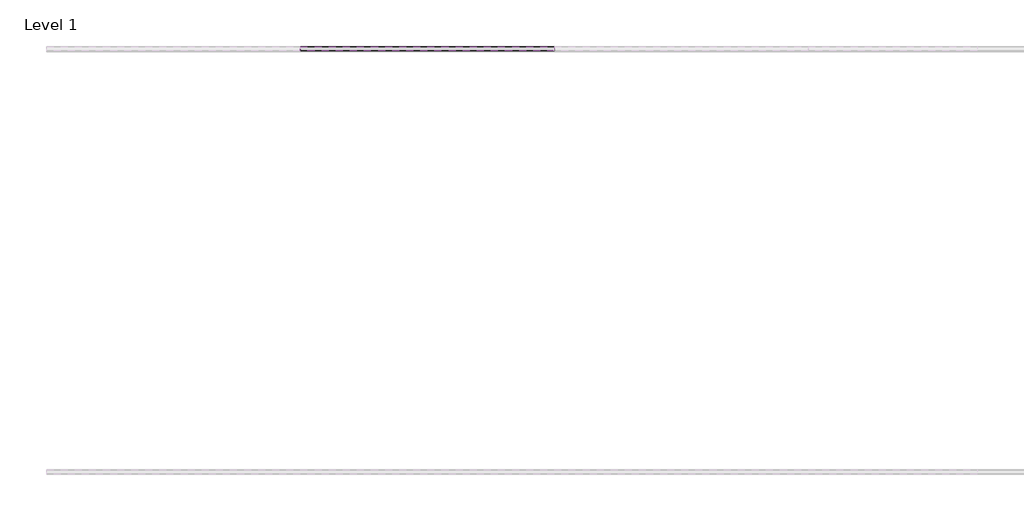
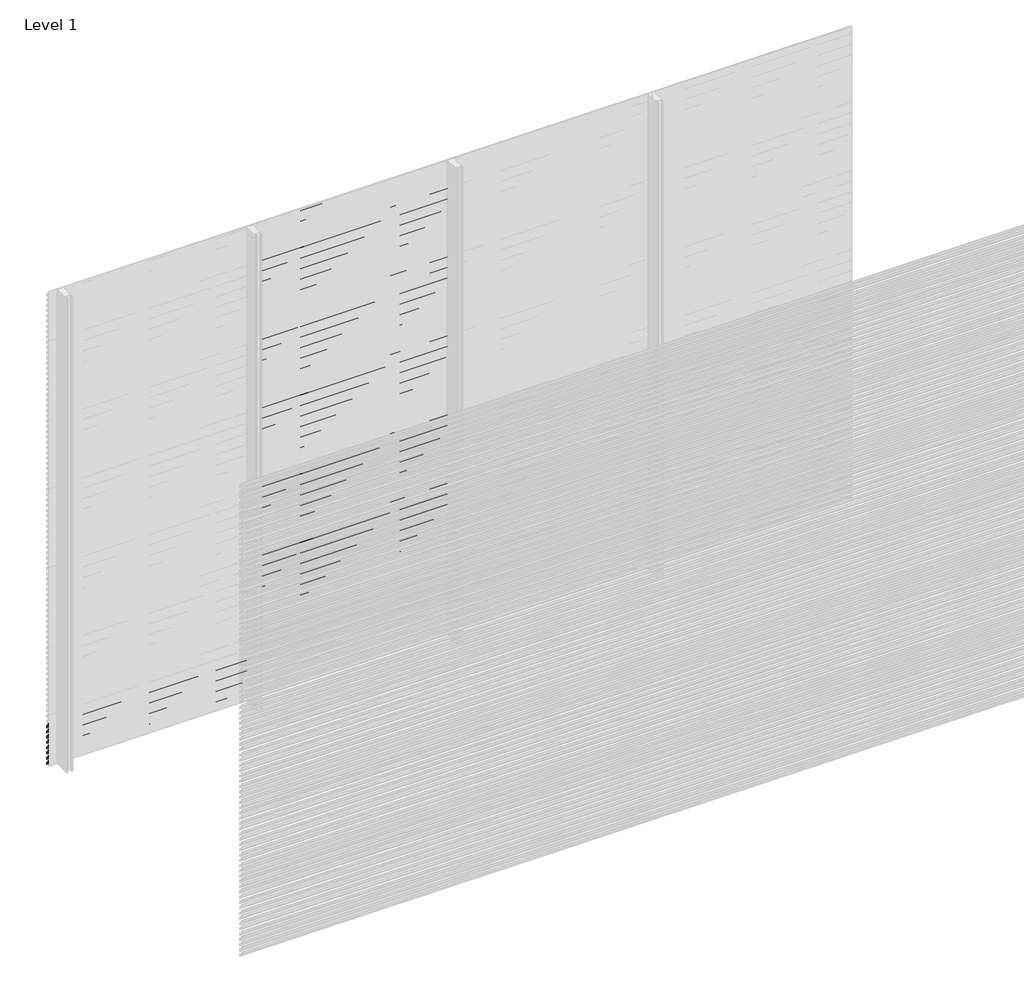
# One storey, part 71 of 507: 84 proxies.
"""IFC4 building model written with IfcOpenShell, lengths in millimetres."""

from ifc_helpers import new_model, si_unit, frame, origin, place, context, project, spatial, polyline, outline, extrude, element, save

model = new_model("IFC4")

# Units and contexts
model_context = context("Model", 3, world=origin())
ifc_project = project(units=[si_unit("LENGTHUNIT", "METRE", prefix="MILLI")], contexts=[model_context])

# Site, building, storey
site = spatial("IfcSite", under=ifc_project)
building = spatial("IfcBuilding", under=site)
storey = spatial("IfcBuildingStorey", under=building, Name="Level 1", Elevation=0.0)

# Proxies
placement = place(None, origin())
element("IfcBuildingElementProxy", 1, Name="Wall Sweeps", at=placement, inside=storey, context=model_context, shape_type="SweptSolid", body=[
    extrude(outline(polyline([(51503.4540136, 242.4), (51503.4540136, 228.9), (51502.2040136, 229.6216933), (51502.2040136, 241.6782281), (51483.0540136, 252.7345698), (51483.0540136, 266.4), (51484.3040136, 266.4), (51484.3040136, 253.4562577), (51503.4540136, 242.4)])), frame((44966.6208097, 0.0, 0.0), z_axis=(1.0, 0.0, 0.0), x_axis=(0.0, 1.0, 0.0)), (0.0, 0.0, 1.0), 1200.0000002),
])
element("IfcBuildingElementProxy", 2, Name="Wall Sweeps", at=placement, inside=storey, context=model_context, shape_type="SweptSolid", body=[
    extrude(outline(polyline([(51503.4540136, 209.1), (51503.4540136, 195.6), (51502.2040136, 196.3216933), (51502.2040136, 208.3782281), (51483.0540136, 219.4345698), (51483.0540136, 233.1), (51484.3040136, 233.1), (51484.3040136, 220.1562577), (51503.4540136, 209.1)])), frame((44966.6208097, 0.0, 0.0), z_axis=(1.0, 0.0, 0.0), x_axis=(0.0, 1.0, 0.0)), (0.0, 0.0, 1.0), 1200.0000002),
])
element("IfcBuildingElementProxy", 3, Name="Wall Sweeps", at=placement, inside=storey, context=model_context, shape_type="SweptSolid", body=[
    extrude(outline(polyline([(51503.4540136, 175.8), (51503.4540136, 162.3), (51502.2040136, 163.0216933), (51502.2040136, 175.0782281), (51483.0540136, 186.1345698), (51483.0540136, 199.8), (51484.3040136, 199.8), (51484.3040136, 186.8562577), (51503.4540136, 175.8)])), frame((44966.6208097, 0.0, 0.0), z_axis=(1.0, 0.0, 0.0), x_axis=(0.0, 1.0, 0.0)), (0.0, 0.0, 1.0), 1200.0000002),
])
element("IfcBuildingElementProxy", 4, Name="Wall Sweeps", at=placement, inside=storey, context=model_context, shape_type="SweptSolid", body=[
    extrude(outline(polyline([(51503.4540136, 142.5), (51503.4540136, 129.0), (51502.2040136, 129.7216933), (51502.2040136, 141.7782281), (51483.0540136, 152.8345698), (51483.0540136, 166.5), (51484.3040136, 166.5), (51484.3040136, 153.5562577), (51503.4540136, 142.5)])), frame((44966.6208097, 0.0, 0.0), z_axis=(1.0, 0.0, 0.0), x_axis=(0.0, 1.0, 0.0)), (0.0, 0.0, 1.0), 1200.0000002),
])
element("IfcBuildingElementProxy", 5, Name="Wall Sweeps", at=placement, inside=storey, context=model_context, shape_type="SweptSolid", body=[
    extrude(outline(polyline([(51503.4540136, 109.2), (51503.4540136, 95.7), (51502.2040136, 96.4216933), (51502.2040136, 108.4782281), (51483.0540136, 119.5345698), (51483.0540136, 133.2), (51484.3040136, 133.2), (51484.3040136, 120.2562577), (51503.4540136, 109.2)])), frame((44966.6208097, 0.0, 0.0), z_axis=(1.0, 0.0, 0.0), x_axis=(0.0, 1.0, 0.0)), (0.0, 0.0, 1.0), 1200.0000002),
])
element("IfcBuildingElementProxy", 6, Name="Wall Sweeps", at=placement, inside=storey, context=model_context, shape_type="SweptSolid", body=[
    extrude(outline(polyline([(51503.4540136, 75.9), (51503.4540136, 62.4), (51502.2040136, 63.1216933), (51502.2040136, 75.1782281), (51483.0540136, 86.2345698), (51483.0540136, 99.9), (51484.3040136, 99.9), (51484.3040136, 86.9562577), (51503.4540136, 75.9)])), frame((44966.6208097, 0.0, 0.0), z_axis=(1.0, 0.0, 0.0), x_axis=(0.0, 1.0, 0.0)), (0.0, 0.0, 1.0), 1200.0000002),
])
element("IfcBuildingElementProxy", 7, Name="Wall Sweeps", at=placement, inside=storey, context=model_context, shape_type="SweptSolid", body=[
    extrude(outline(polyline([(51503.4540136, 42.6), (51503.4540136, 29.1), (51502.2040136, 29.8216933), (51502.2040136, 41.8782281), (51483.0540136, 52.9345698), (51483.0540136, 66.6), (51484.3040136, 66.6), (51484.3040136, 53.6562577), (51503.4540136, 42.6)])), frame((44966.6208097, 0.0, 0.0), z_axis=(1.0, 0.0, 0.0), x_axis=(0.0, 1.0, 0.0)), (0.0, 0.0, 1.0), 1200.0000002),
])
element("IfcBuildingElementProxy", 8, Name="Wall Sweeps", at=placement, inside=storey, context=model_context, shape_type="SweptSolid", body=[
    extrude(outline(polyline([(51503.4540136, 9.3), (51503.4540136, -4.2), (51502.2040136, -3.4783067), (51502.2040136, 8.5782281), (51483.0540136, 19.6345698), (51483.0540136, 33.3), (51484.3040136, 33.3), (51484.3040136, 20.3562577), (51503.4540136, 9.3)])), frame((44966.6208097, 0.0, 0.0), z_axis=(1.0, 0.0, 0.0), x_axis=(0.0, 1.0, 0.0)), (0.0, 0.0, 1.0), 1200.0000002),
])
element("IfcBuildingElementProxy", 9, Name="Wall Sweeps", at=placement, inside=storey, context=model_context, shape_type="SweptSolid", body=[
    extrude(outline(polyline([(51503.4540136, 2973.0), (51503.4540136, 2959.5), (51502.2040136, 2960.2216933), (51502.2040136, 2972.2782281), (51483.0540136, 2983.3345698), (51483.0540136, 2997.0), (51484.3040136, 2997.0), (51484.3040136, 2984.0562577), (51503.4540136, 2973.0)])), frame((46166.6208099, 0.0, 0.0), z_axis=(1.0, 0.0, 0.0), x_axis=(0.0, 1.0, 0.0)), (0.0, 0.0, 1.0), 1199.9999999),
])
element("IfcBuildingElementProxy", 10, Name="Wall Sweeps", at=placement, inside=storey, context=model_context, shape_type="SweptSolid", body=[
    extrude(outline(polyline([(51503.4540136, 2939.7), (51503.4540136, 2926.2), (51502.2040136, 2926.9216933), (51502.2040136, 2938.9782281), (51483.0540136, 2950.0345698), (51483.0540136, 2963.7), (51484.3040136, 2963.7), (51484.3040136, 2950.7562577), (51503.4540136, 2939.7)])), frame((46166.6208099, 0.0, 0.0), z_axis=(1.0, 0.0, 0.0), x_axis=(0.0, 1.0, 0.0)), (0.0, 0.0, 1.0), 1199.9999999),
])
element("IfcBuildingElementProxy", 11, Name="Wall Sweeps", at=placement, inside=storey, context=model_context, shape_type="SweptSolid", body=[
    extrude(outline(polyline([(51503.4540136, 2906.4), (51503.4540136, 2892.9), (51502.2040136, 2893.6216933), (51502.2040136, 2905.6782281), (51483.0540136, 2916.7345698), (51483.0540136, 2930.4), (51484.3040136, 2930.4), (51484.3040136, 2917.4562577), (51503.4540136, 2906.4)])), frame((46166.6208099, 0.0, 0.0), z_axis=(1.0, 0.0, 0.0), x_axis=(0.0, 1.0, 0.0)), (0.0, 0.0, 1.0), 1199.9999999),
])
element("IfcBuildingElementProxy", 12, Name="Wall Sweeps", at=placement, inside=storey, context=model_context, shape_type="SweptSolid", body=[
    extrude(outline(polyline([(51503.4540136, 2873.1), (51503.4540136, 2859.6), (51502.2040136, 2860.3216933), (51502.2040136, 2872.3782281), (51483.0540136, 2883.4345698), (51483.0540136, 2897.1), (51484.3040136, 2897.1), (51484.3040136, 2884.1562577), (51503.4540136, 2873.1)])), frame((46166.6208099, 0.0, 0.0), z_axis=(1.0, 0.0, 0.0), x_axis=(0.0, 1.0, 0.0)), (0.0, 0.0, 1.0), 1199.9999999),
])
element("IfcBuildingElementProxy", 13, Name="Wall Sweeps", at=placement, inside=storey, context=model_context, shape_type="SweptSolid", body=[
    extrude(outline(polyline([(51503.4540136, 2839.8), (51503.4540136, 2826.3), (51502.2040136, 2827.0216933), (51502.2040136, 2839.0782281), (51483.0540136, 2850.1345698), (51483.0540136, 2863.8), (51484.3040136, 2863.8), (51484.3040136, 2850.8562577), (51503.4540136, 2839.8)])), frame((46166.6208099, 0.0, 0.0), z_axis=(1.0, 0.0, 0.0), x_axis=(0.0, 1.0, 0.0)), (0.0, 0.0, 1.0), 1199.9999999),
])
element("IfcBuildingElementProxy", 14, Name="Wall Sweeps", at=placement, inside=storey, context=model_context, shape_type="SweptSolid", body=[
    extrude(outline(polyline([(51503.4540136, 2806.5), (51503.4540136, 2793.0), (51502.2040136, 2793.7216933), (51502.2040136, 2805.7782281), (51483.0540136, 2816.8345698), (51483.0540136, 2830.5), (51484.3040136, 2830.5), (51484.3040136, 2817.5562577), (51503.4540136, 2806.5)])), frame((46166.6208099, 0.0, 0.0), z_axis=(1.0, 0.0, 0.0), x_axis=(0.0, 1.0, 0.0)), (0.0, 0.0, 1.0), 1199.9999999),
])
element("IfcBuildingElementProxy", 15, Name="Wall Sweeps", at=placement, inside=storey, context=model_context, shape_type="SweptSolid", body=[
    extrude(outline(polyline([(51503.4540136, 2773.2), (51503.4540136, 2759.7), (51502.2040136, 2760.4216933), (51502.2040136, 2772.4782281), (51483.0540136, 2783.5345698), (51483.0540136, 2797.2), (51484.3040136, 2797.2), (51484.3040136, 2784.2562577), (51503.4540136, 2773.2)])), frame((46166.6208099, 0.0, 0.0), z_axis=(1.0, 0.0, 0.0), x_axis=(0.0, 1.0, 0.0)), (0.0, 0.0, 1.0), 1199.9999999),
])
element("IfcBuildingElementProxy", 16, Name="Wall Sweeps", at=placement, inside=storey, context=model_context, shape_type="SweptSolid", body=[
    extrude(outline(polyline([(51503.4540136, 2739.9), (51503.4540136, 2726.4), (51502.2040136, 2727.1216933), (51502.2040136, 2739.1782281), (51483.0540136, 2750.2345698), (51483.0540136, 2763.9), (51484.3040136, 2763.9), (51484.3040136, 2750.9562577), (51503.4540136, 2739.9)])), frame((46166.6208099, 0.0, 0.0), z_axis=(1.0, 0.0, 0.0), x_axis=(0.0, 1.0, 0.0)), (0.0, 0.0, 1.0), 1199.9999999),
])
element("IfcBuildingElementProxy", 17, Name="Wall Sweeps", at=placement, inside=storey, context=model_context, shape_type="SweptSolid", body=[
    extrude(outline(polyline([(51503.4540136, 2706.6), (51503.4540136, 2693.1), (51502.2040136, 2693.8216933), (51502.2040136, 2705.8782281), (51483.0540136, 2716.9345698), (51483.0540136, 2730.6), (51484.3040136, 2730.6), (51484.3040136, 2717.6562577), (51503.4540136, 2706.6)])), frame((46166.6208099, 0.0, 0.0), z_axis=(1.0, 0.0, 0.0), x_axis=(0.0, 1.0, 0.0)), (0.0, 0.0, 1.0), 1199.9999999),
])
element("IfcBuildingElementProxy", 18, Name="Wall Sweeps", at=placement, inside=storey, context=model_context, shape_type="SweptSolid", body=[
    extrude(outline(polyline([(51503.4540136, 2673.3), (51503.4540136, 2659.8), (51502.2040136, 2660.5216933), (51502.2040136, 2672.5782281), (51483.0540136, 2683.6345698), (51483.0540136, 2697.3), (51484.3040136, 2697.3), (51484.3040136, 2684.3562577), (51503.4540136, 2673.3)])), frame((46166.6208099, 0.0, 0.0), z_axis=(1.0, 0.0, 0.0), x_axis=(0.0, 1.0, 0.0)), (0.0, 0.0, 1.0), 1199.9999999),
])
element("IfcBuildingElementProxy", 19, Name="Wall Sweeps", at=placement, inside=storey, context=model_context, shape_type="SweptSolid", body=[
    extrude(outline(polyline([(51503.4540136, 2640.0), (51503.4540136, 2626.5), (51502.2040136, 2627.2216933), (51502.2040136, 2639.2782281), (51483.0540136, 2650.3345698), (51483.0540136, 2664.0), (51484.3040136, 2664.0), (51484.3040136, 2651.0562577), (51503.4540136, 2640.0)])), frame((46166.6208099, 0.0, 0.0), z_axis=(1.0, 0.0, 0.0), x_axis=(0.0, 1.0, 0.0)), (0.0, 0.0, 1.0), 1199.9999999),
])
element("IfcBuildingElementProxy", 20, Name="Wall Sweeps", at=placement, inside=storey, context=model_context, shape_type="SweptSolid", body=[
    extrude(outline(polyline([(51503.4540136, 2606.7), (51503.4540136, 2593.2), (51502.2040136, 2593.9216933), (51502.2040136, 2605.9782281), (51483.0540136, 2617.0345698), (51483.0540136, 2630.7), (51484.3040136, 2630.7), (51484.3040136, 2617.7562577), (51503.4540136, 2606.7)])), frame((46166.6208099, 0.0, 0.0), z_axis=(1.0, 0.0, 0.0), x_axis=(0.0, 1.0, 0.0)), (0.0, 0.0, 1.0), 1199.9999999),
])
element("IfcBuildingElementProxy", 21, Name="Wall Sweeps", at=placement, inside=storey, context=model_context, shape_type="SweptSolid", body=[
    extrude(outline(polyline([(51503.4540136, 2573.4), (51503.4540136, 2559.9), (51502.2040136, 2560.6216933), (51502.2040136, 2572.6782281), (51483.0540136, 2583.7345698), (51483.0540136, 2597.4), (51484.3040136, 2597.4), (51484.3040136, 2584.4562577), (51503.4540136, 2573.4)])), frame((46166.6208099, 0.0, 0.0), z_axis=(1.0, 0.0, 0.0), x_axis=(0.0, 1.0, 0.0)), (0.0, 0.0, 1.0), 1199.9999999),
])
element("IfcBuildingElementProxy", 22, Name="Wall Sweeps", at=placement, inside=storey, context=model_context, shape_type="SweptSolid", body=[
    extrude(outline(polyline([(51503.4540136, 2540.1), (51503.4540136, 2526.6), (51502.2040136, 2527.3216933), (51502.2040136, 2539.3782281), (51483.0540136, 2550.4345698), (51483.0540136, 2564.1), (51484.3040136, 2564.1), (51484.3040136, 2551.1562577), (51503.4540136, 2540.1)])), frame((46166.6208099, 0.0, 0.0), z_axis=(1.0, 0.0, 0.0), x_axis=(0.0, 1.0, 0.0)), (0.0, 0.0, 1.0), 1199.9999999),
])
element("IfcBuildingElementProxy", 23, Name="Wall Sweeps", at=placement, inside=storey, context=model_context, shape_type="SweptSolid", body=[
    extrude(outline(polyline([(51503.4540136, 2506.8), (51503.4540136, 2493.3), (51502.2040136, 2494.0216933), (51502.2040136, 2506.0782281), (51483.0540136, 2517.1345698), (51483.0540136, 2530.8), (51484.3040136, 2530.8), (51484.3040136, 2517.8562577), (51503.4540136, 2506.8)])), frame((46166.6208099, 0.0, 0.0), z_axis=(1.0, 0.0, 0.0), x_axis=(0.0, 1.0, 0.0)), (0.0, 0.0, 1.0), 1199.9999999),
])
element("IfcBuildingElementProxy", 24, Name="Wall Sweeps", at=placement, inside=storey, context=model_context, shape_type="SweptSolid", body=[
    extrude(outline(polyline([(51503.4540136, 2473.5), (51503.4540136, 2460.0), (51502.2040136, 2460.7216933), (51502.2040136, 2472.7782281), (51483.0540136, 2483.8345698), (51483.0540136, 2497.5), (51484.3040136, 2497.5), (51484.3040136, 2484.5562577), (51503.4540136, 2473.5)])), frame((46166.6208099, 0.0, 0.0), z_axis=(1.0, 0.0, 0.0), x_axis=(0.0, 1.0, 0.0)), (0.0, 0.0, 1.0), 1199.9999999),
])
element("IfcBuildingElementProxy", 25, Name="Wall Sweeps", at=placement, inside=storey, context=model_context, shape_type="SweptSolid", body=[
    extrude(outline(polyline([(51503.4540136, 2440.2), (51503.4540136, 2426.7), (51502.2040136, 2427.4216933), (51502.2040136, 2439.4782281), (51483.0540136, 2450.5345698), (51483.0540136, 2464.2), (51484.3040136, 2464.2), (51484.3040136, 2451.2562577), (51503.4540136, 2440.2)])), frame((46166.6208099, 0.0, 0.0), z_axis=(1.0, 0.0, 0.0), x_axis=(0.0, 1.0, 0.0)), (0.0, 0.0, 1.0), 1199.9999999),
])
element("IfcBuildingElementProxy", 26, Name="Wall Sweeps", at=placement, inside=storey, context=model_context, shape_type="SweptSolid", body=[
    extrude(outline(polyline([(51503.4540136, 2406.9), (51503.4540136, 2393.4), (51502.2040136, 2394.1216933), (51502.2040136, 2406.1782281), (51483.0540136, 2417.2345698), (51483.0540136, 2430.9), (51484.3040136, 2430.9), (51484.3040136, 2417.9562577), (51503.4540136, 2406.9)])), frame((46166.6208099, 0.0, 0.0), z_axis=(1.0, 0.0, 0.0), x_axis=(0.0, 1.0, 0.0)), (0.0, 0.0, 1.0), 1199.9999999),
])
element("IfcBuildingElementProxy", 27, Name="Wall Sweeps", at=placement, inside=storey, context=model_context, shape_type="SweptSolid", body=[
    extrude(outline(polyline([(51503.4540136, 2373.6), (51503.4540136, 2360.1), (51502.2040136, 2360.8216933), (51502.2040136, 2372.8782281), (51483.0540136, 2383.9345698), (51483.0540136, 2397.6), (51484.3040136, 2397.6), (51484.3040136, 2384.6562577), (51503.4540136, 2373.6)])), frame((46166.6208099, 0.0, 0.0), z_axis=(1.0, 0.0, 0.0), x_axis=(0.0, 1.0, 0.0)), (0.0, 0.0, 1.0), 1199.9999999),
])
element("IfcBuildingElementProxy", 28, Name="Wall Sweeps", at=placement, inside=storey, context=model_context, shape_type="SweptSolid", body=[
    extrude(outline(polyline([(51503.4540136, 2340.3), (51503.4540136, 2326.8), (51502.2040136, 2327.5216933), (51502.2040136, 2339.5782281), (51483.0540136, 2350.6345698), (51483.0540136, 2364.3), (51484.3040136, 2364.3), (51484.3040136, 2351.3562577), (51503.4540136, 2340.3)])), frame((46166.6208099, 0.0, 0.0), z_axis=(1.0, 0.0, 0.0), x_axis=(0.0, 1.0, 0.0)), (0.0, 0.0, 1.0), 1199.9999999),
])
element("IfcBuildingElementProxy", 29, Name="Wall Sweeps", at=placement, inside=storey, context=model_context, shape_type="SweptSolid", body=[
    extrude(outline(polyline([(51503.4540136, 2307.0), (51503.4540136, 2293.5), (51502.2040136, 2294.2216933), (51502.2040136, 2306.2782281), (51483.0540136, 2317.3345698), (51483.0540136, 2331.0), (51484.3040136, 2331.0), (51484.3040136, 2318.0562577), (51503.4540136, 2307.0)])), frame((46166.6208099, 0.0, 0.0), z_axis=(1.0, 0.0, 0.0), x_axis=(0.0, 1.0, 0.0)), (0.0, 0.0, 1.0), 1199.9999999),
])
element("IfcBuildingElementProxy", 30, Name="Wall Sweeps", at=placement, inside=storey, context=model_context, shape_type="SweptSolid", body=[
    extrude(outline(polyline([(51503.4540136, 2273.7), (51503.4540136, 2260.2), (51502.2040136, 2260.9216933), (51502.2040136, 2272.9782281), (51483.0540136, 2284.0345698), (51483.0540136, 2297.7), (51484.3040136, 2297.7), (51484.3040136, 2284.7562577), (51503.4540136, 2273.7)])), frame((46166.6208099, 0.0, 0.0), z_axis=(1.0, 0.0, 0.0), x_axis=(0.0, 1.0, 0.0)), (0.0, 0.0, 1.0), 1199.9999999),
])
element("IfcBuildingElementProxy", 31, Name="Wall Sweeps", at=placement, inside=storey, context=model_context, shape_type="SweptSolid", body=[
    extrude(outline(polyline([(51503.4540136, 2240.4), (51503.4540136, 2226.9), (51502.2040136, 2227.6216933), (51502.2040136, 2239.6782281), (51483.0540136, 2250.7345698), (51483.0540136, 2264.4), (51484.3040136, 2264.4), (51484.3040136, 2251.4562577), (51503.4540136, 2240.4)])), frame((46166.6208099, 0.0, 0.0), z_axis=(1.0, 0.0, 0.0), x_axis=(0.0, 1.0, 0.0)), (0.0, 0.0, 1.0), 1199.9999999),
])
element("IfcBuildingElementProxy", 32, Name="Wall Sweeps", at=placement, inside=storey, context=model_context, shape_type="SweptSolid", body=[
    extrude(outline(polyline([(51503.4540136, 2207.1), (51503.4540136, 2193.6), (51502.2040136, 2194.3216933), (51502.2040136, 2206.3782281), (51483.0540136, 2217.4345698), (51483.0540136, 2231.1), (51484.3040136, 2231.1), (51484.3040136, 2218.1562577), (51503.4540136, 2207.1)])), frame((46166.6208099, 0.0, 0.0), z_axis=(1.0, 0.0, 0.0), x_axis=(0.0, 1.0, 0.0)), (0.0, 0.0, 1.0), 1199.9999999),
])
element("IfcBuildingElementProxy", 33, Name="Wall Sweeps", at=placement, inside=storey, context=model_context, shape_type="SweptSolid", body=[
    extrude(outline(polyline([(51503.4540136, 2173.8), (51503.4540136, 2160.3), (51502.2040136, 2161.0216933), (51502.2040136, 2173.0782281), (51483.0540136, 2184.1345698), (51483.0540136, 2197.8), (51484.3040136, 2197.8), (51484.3040136, 2184.8562577), (51503.4540136, 2173.8)])), frame((46166.6208099, 0.0, 0.0), z_axis=(1.0, 0.0, 0.0), x_axis=(0.0, 1.0, 0.0)), (0.0, 0.0, 1.0), 1199.9999999),
])
element("IfcBuildingElementProxy", 34, Name="Wall Sweeps", at=placement, inside=storey, context=model_context, shape_type="SweptSolid", body=[
    extrude(outline(polyline([(51503.4540136, 2140.5), (51503.4540136, 2127.0), (51502.2040136, 2127.7216933), (51502.2040136, 2139.7782281), (51483.0540136, 2150.8345698), (51483.0540136, 2164.5), (51484.3040136, 2164.5), (51484.3040136, 2151.5562577), (51503.4540136, 2140.5)])), frame((46166.6208099, 0.0, 0.0), z_axis=(1.0, 0.0, 0.0), x_axis=(0.0, 1.0, 0.0)), (0.0, 0.0, 1.0), 1199.9999999),
])
element("IfcBuildingElementProxy", 35, Name="Wall Sweeps", at=placement, inside=storey, context=model_context, shape_type="SweptSolid", body=[
    extrude(outline(polyline([(51503.4540136, 2107.2), (51503.4540136, 2093.7), (51502.2040136, 2094.4216933), (51502.2040136, 2106.4782281), (51483.0540136, 2117.5345698), (51483.0540136, 2131.2), (51484.3040136, 2131.2), (51484.3040136, 2118.2562577), (51503.4540136, 2107.2)])), frame((46166.6208099, 0.0, 0.0), z_axis=(1.0, 0.0, 0.0), x_axis=(0.0, 1.0, 0.0)), (0.0, 0.0, 1.0), 1199.9999999),
])
element("IfcBuildingElementProxy", 36, Name="Wall Sweeps", at=placement, inside=storey, context=model_context, shape_type="SweptSolid", body=[
    extrude(outline(polyline([(51503.4540136, 2073.9), (51503.4540136, 2060.4), (51502.2040136, 2061.1216933), (51502.2040136, 2073.1782281), (51483.0540136, 2084.2345698), (51483.0540136, 2097.9), (51484.3040136, 2097.9), (51484.3040136, 2084.9562577), (51503.4540136, 2073.9)])), frame((46166.6208099, 0.0, 0.0), z_axis=(1.0, 0.0, 0.0), x_axis=(0.0, 1.0, 0.0)), (0.0, 0.0, 1.0), 1199.9999999),
])
element("IfcBuildingElementProxy", 37, Name="Wall Sweeps", at=placement, inside=storey, context=model_context, shape_type="SweptSolid", body=[
    extrude(outline(polyline([(51503.4540136, 2040.6), (51503.4540136, 2027.1), (51502.2040136, 2027.8216933), (51502.2040136, 2039.8782281), (51483.0540136, 2050.9345698), (51483.0540136, 2064.6), (51484.3040136, 2064.6), (51484.3040136, 2051.6562577), (51503.4540136, 2040.6)])), frame((46166.6208099, 0.0, 0.0), z_axis=(1.0, 0.0, 0.0), x_axis=(0.0, 1.0, 0.0)), (0.0, 0.0, 1.0), 1199.9999999),
])
element("IfcBuildingElementProxy", 38, Name="Wall Sweeps", at=placement, inside=storey, context=model_context, shape_type="SweptSolid", body=[
    extrude(outline(polyline([(51503.4540136, 2007.3), (51503.4540136, 1993.8), (51502.2040136, 1994.5216933), (51502.2040136, 2006.5782281), (51483.0540136, 2017.6345698), (51483.0540136, 2031.3), (51484.3040136, 2031.3), (51484.3040136, 2018.3562577), (51503.4540136, 2007.3)])), frame((46166.6208099, 0.0, 0.0), z_axis=(1.0, 0.0, 0.0), x_axis=(0.0, 1.0, 0.0)), (0.0, 0.0, 1.0), 1199.9999999),
])
element("IfcBuildingElementProxy", 39, Name="Wall Sweeps", at=placement, inside=storey, context=model_context, shape_type="SweptSolid", body=[
    extrude(outline(polyline([(51503.4540136, 1974.0), (51503.4540136, 1960.5), (51502.2040136, 1961.2216933), (51502.2040136, 1973.2782281), (51483.0540136, 1984.3345698), (51483.0540136, 1998.0), (51484.3040136, 1998.0), (51484.3040136, 1985.0562577), (51503.4540136, 1974.0)])), frame((46166.6208099, 0.0, 0.0), z_axis=(1.0, 0.0, 0.0), x_axis=(0.0, 1.0, 0.0)), (0.0, 0.0, 1.0), 1199.9999999),
])
element("IfcBuildingElementProxy", 40, Name="Wall Sweeps", at=placement, inside=storey, context=model_context, shape_type="SweptSolid", body=[
    extrude(outline(polyline([(51503.4540136, 1940.7), (51503.4540136, 1927.2), (51502.2040136, 1927.9216933), (51502.2040136, 1939.9782281), (51483.0540136, 1951.0345698), (51483.0540136, 1964.7), (51484.3040136, 1964.7), (51484.3040136, 1951.7562577), (51503.4540136, 1940.7)])), frame((46166.6208099, 0.0, 0.0), z_axis=(1.0, 0.0, 0.0), x_axis=(0.0, 1.0, 0.0)), (0.0, 0.0, 1.0), 1199.9999999),
])
element("IfcBuildingElementProxy", 41, Name="Wall Sweeps", at=placement, inside=storey, context=model_context, shape_type="SweptSolid", body=[
    extrude(outline(polyline([(51503.4540136, 1907.4), (51503.4540136, 1893.9), (51502.2040136, 1894.6216933), (51502.2040136, 1906.6782281), (51483.0540136, 1917.7345698), (51483.0540136, 1931.4), (51484.3040136, 1931.4), (51484.3040136, 1918.4562577), (51503.4540136, 1907.4)])), frame((46166.6208099, 0.0, 0.0), z_axis=(1.0, 0.0, 0.0), x_axis=(0.0, 1.0, 0.0)), (0.0, 0.0, 1.0), 1199.9999999),
])
element("IfcBuildingElementProxy", 42, Name="Wall Sweeps", at=placement, inside=storey, context=model_context, shape_type="SweptSolid", body=[
    extrude(outline(polyline([(51503.4540136, 1874.1), (51503.4540136, 1860.6), (51502.2040136, 1861.3216933), (51502.2040136, 1873.3782281), (51483.0540136, 1884.4345698), (51483.0540136, 1898.1), (51484.3040136, 1898.1), (51484.3040136, 1885.1562577), (51503.4540136, 1874.1)])), frame((46166.6208099, 0.0, 0.0), z_axis=(1.0, 0.0, 0.0), x_axis=(0.0, 1.0, 0.0)), (0.0, 0.0, 1.0), 1199.9999999),
])
element("IfcBuildingElementProxy", 43, Name="Wall Sweeps", at=placement, inside=storey, context=model_context, shape_type="SweptSolid", body=[
    extrude(outline(polyline([(51503.4540136, 1840.8), (51503.4540136, 1827.3), (51502.2040136, 1828.0216933), (51502.2040136, 1840.0782281), (51483.0540136, 1851.1345698), (51483.0540136, 1864.8), (51484.3040136, 1864.8), (51484.3040136, 1851.8562577), (51503.4540136, 1840.8)])), frame((46166.6208099, 0.0, 0.0), z_axis=(1.0, 0.0, 0.0), x_axis=(0.0, 1.0, 0.0)), (0.0, 0.0, 1.0), 1199.9999999),
])
element("IfcBuildingElementProxy", 44, Name="Wall Sweeps", at=placement, inside=storey, context=model_context, shape_type="SweptSolid", body=[
    extrude(outline(polyline([(51503.4540136, 1807.5), (51503.4540136, 1794.0), (51502.2040136, 1794.7216933), (51502.2040136, 1806.7782281), (51483.0540136, 1817.8345698), (51483.0540136, 1831.5), (51484.3040136, 1831.5), (51484.3040136, 1818.5562577), (51503.4540136, 1807.5)])), frame((46166.6208099, 0.0, 0.0), z_axis=(1.0, 0.0, 0.0), x_axis=(0.0, 1.0, 0.0)), (0.0, 0.0, 1.0), 1199.9999999),
])
element("IfcBuildingElementProxy", 45, Name="Wall Sweeps", at=placement, inside=storey, context=model_context, shape_type="SweptSolid", body=[
    extrude(outline(polyline([(51503.4540136, 1774.2), (51503.4540136, 1760.7), (51502.2040136, 1761.4216933), (51502.2040136, 1773.4782281), (51483.0540136, 1784.5345698), (51483.0540136, 1798.2), (51484.3040136, 1798.2), (51484.3040136, 1785.2562577), (51503.4540136, 1774.2)])), frame((46166.6208099, 0.0, 0.0), z_axis=(1.0, 0.0, 0.0), x_axis=(0.0, 1.0, 0.0)), (0.0, 0.0, 1.0), 1199.9999999),
])
element("IfcBuildingElementProxy", 46, Name="Wall Sweeps", at=placement, inside=storey, context=model_context, shape_type="SweptSolid", body=[
    extrude(outline(polyline([(51503.4540136, 1740.9), (51503.4540136, 1727.4), (51502.2040136, 1728.1216933), (51502.2040136, 1740.1782281), (51483.0540136, 1751.2345698), (51483.0540136, 1764.9), (51484.3040136, 1764.9), (51484.3040136, 1751.9562577), (51503.4540136, 1740.9)])), frame((46166.6208099, 0.0, 0.0), z_axis=(1.0, 0.0, 0.0), x_axis=(0.0, 1.0, 0.0)), (0.0, 0.0, 1.0), 1199.9999999),
])
element("IfcBuildingElementProxy", 47, Name="Wall Sweeps", at=placement, inside=storey, context=model_context, shape_type="SweptSolid", body=[
    extrude(outline(polyline([(51503.4540136, 1707.6), (51503.4540136, 1694.1), (51502.2040136, 1694.8216933), (51502.2040136, 1706.8782281), (51483.0540136, 1717.9345698), (51483.0540136, 1731.6), (51484.3040136, 1731.6), (51484.3040136, 1718.6562577), (51503.4540136, 1707.6)])), frame((46166.6208099, 0.0, 0.0), z_axis=(1.0, 0.0, 0.0), x_axis=(0.0, 1.0, 0.0)), (0.0, 0.0, 1.0), 1199.9999999),
])
element("IfcBuildingElementProxy", 48, Name="Wall Sweeps", at=placement, inside=storey, context=model_context, shape_type="SweptSolid", body=[
    extrude(outline(polyline([(51503.4540136, 1674.3), (51503.4540136, 1660.8), (51502.2040136, 1661.5216933), (51502.2040136, 1673.5782281), (51483.0540136, 1684.6345698), (51483.0540136, 1698.3), (51484.3040136, 1698.3), (51484.3040136, 1685.3562577), (51503.4540136, 1674.3)])), frame((46166.6208099, 0.0, 0.0), z_axis=(1.0, 0.0, 0.0), x_axis=(0.0, 1.0, 0.0)), (0.0, 0.0, 1.0), 1199.9999999),
])
element("IfcBuildingElementProxy", 49, Name="Wall Sweeps", at=placement, inside=storey, context=model_context, shape_type="SweptSolid", body=[
    extrude(outline(polyline([(51503.4540136, 1641.0), (51503.4540136, 1627.5), (51502.2040136, 1628.2216933), (51502.2040136, 1640.2782281), (51483.0540136, 1651.3345698), (51483.0540136, 1665.0), (51484.3040136, 1665.0), (51484.3040136, 1652.0562577), (51503.4540136, 1641.0)])), frame((46166.6208099, 0.0, 0.0), z_axis=(1.0, 0.0, 0.0), x_axis=(0.0, 1.0, 0.0)), (0.0, 0.0, 1.0), 1199.9999999),
])
element("IfcBuildingElementProxy", 50, Name="Wall Sweeps", at=placement, inside=storey, context=model_context, shape_type="SweptSolid", body=[
    extrude(outline(polyline([(51503.4540136, 1607.7), (51503.4540136, 1594.2), (51502.2040136, 1594.9216933), (51502.2040136, 1606.9782281), (51483.0540136, 1618.0345698), (51483.0540136, 1631.7), (51484.3040136, 1631.7), (51484.3040136, 1618.7562577), (51503.4540136, 1607.7)])), frame((46166.6208099, 0.0, 0.0), z_axis=(1.0, 0.0, 0.0), x_axis=(0.0, 1.0, 0.0)), (0.0, 0.0, 1.0), 1199.9999999),
])
element("IfcBuildingElementProxy", 51, Name="Wall Sweeps", at=placement, inside=storey, context=model_context, shape_type="SweptSolid", body=[
    extrude(outline(polyline([(51503.4540136, 1574.4), (51503.4540136, 1560.9), (51502.2040136, 1561.6216933), (51502.2040136, 1573.6782281), (51483.0540136, 1584.7345698), (51483.0540136, 1598.4), (51484.3040136, 1598.4), (51484.3040136, 1585.4562577), (51503.4540136, 1574.4)])), frame((46166.6208099, 0.0, 0.0), z_axis=(1.0, 0.0, 0.0), x_axis=(0.0, 1.0, 0.0)), (0.0, 0.0, 1.0), 1199.9999999),
])
element("IfcBuildingElementProxy", 52, Name="Wall Sweeps", at=placement, inside=storey, context=model_context, shape_type="SweptSolid", body=[
    extrude(outline(polyline([(51503.4540136, 1541.1), (51503.4540136, 1527.6), (51502.2040136, 1528.3216933), (51502.2040136, 1540.3782281), (51483.0540136, 1551.4345698), (51483.0540136, 1565.1), (51484.3040136, 1565.1), (51484.3040136, 1552.1562577), (51503.4540136, 1541.1)])), frame((46166.6208099, 0.0, 0.0), z_axis=(1.0, 0.0, 0.0), x_axis=(0.0, 1.0, 0.0)), (0.0, 0.0, 1.0), 1199.9999999),
])
element("IfcBuildingElementProxy", 53, Name="Wall Sweeps", at=placement, inside=storey, context=model_context, shape_type="SweptSolid", body=[
    extrude(outline(polyline([(51503.4540136, 1507.8), (51503.4540136, 1494.3), (51502.2040136, 1495.0216933), (51502.2040136, 1507.0782281), (51483.0540136, 1518.1345698), (51483.0540136, 1531.8), (51484.3040136, 1531.8), (51484.3040136, 1518.8562577), (51503.4540136, 1507.8)])), frame((46166.6208099, 0.0, 0.0), z_axis=(1.0, 0.0, 0.0), x_axis=(0.0, 1.0, 0.0)), (0.0, 0.0, 1.0), 1199.9999999),
])
element("IfcBuildingElementProxy", 54, Name="Wall Sweeps", at=placement, inside=storey, context=model_context, shape_type="SweptSolid", body=[
    extrude(outline(polyline([(51503.4540136, 1474.5), (51503.4540136, 1461.0), (51502.2040136, 1461.7216933), (51502.2040136, 1473.7782281), (51483.0540136, 1484.8345698), (51483.0540136, 1498.5), (51484.3040136, 1498.5), (51484.3040136, 1485.5562577), (51503.4540136, 1474.5)])), frame((46166.6208099, 0.0, 0.0), z_axis=(1.0, 0.0, 0.0), x_axis=(0.0, 1.0, 0.0)), (0.0, 0.0, 1.0), 1199.9999999),
])
element("IfcBuildingElementProxy", 55, Name="Wall Sweeps", at=placement, inside=storey, context=model_context, shape_type="SweptSolid", body=[
    extrude(outline(polyline([(51503.4540136, 1441.2), (51503.4540136, 1427.7), (51502.2040136, 1428.4216933), (51502.2040136, 1440.4782281), (51483.0540136, 1451.5345698), (51483.0540136, 1465.2), (51484.3040136, 1465.2), (51484.3040136, 1452.2562577), (51503.4540136, 1441.2)])), frame((46166.6208099, 0.0, 0.0), z_axis=(1.0, 0.0, 0.0), x_axis=(0.0, 1.0, 0.0)), (0.0, 0.0, 1.0), 1199.9999999),
])
element("IfcBuildingElementProxy", 56, Name="Wall Sweeps", at=placement, inside=storey, context=model_context, shape_type="SweptSolid", body=[
    extrude(outline(polyline([(51503.4540136, 1407.9), (51503.4540136, 1394.4), (51502.2040136, 1395.1216933), (51502.2040136, 1407.1782281), (51483.0540136, 1418.2345698), (51483.0540136, 1431.9), (51484.3040136, 1431.9), (51484.3040136, 1418.9562577), (51503.4540136, 1407.9)])), frame((46166.6208099, 0.0, 0.0), z_axis=(1.0, 0.0, 0.0), x_axis=(0.0, 1.0, 0.0)), (0.0, 0.0, 1.0), 1199.9999999),
])
element("IfcBuildingElementProxy", 57, Name="Wall Sweeps", at=placement, inside=storey, context=model_context, shape_type="SweptSolid", body=[
    extrude(outline(polyline([(51503.4540136, 1374.6), (51503.4540136, 1361.1), (51502.2040136, 1361.8216933), (51502.2040136, 1373.8782281), (51483.0540136, 1384.9345698), (51483.0540136, 1398.6), (51484.3040136, 1398.6), (51484.3040136, 1385.6562577), (51503.4540136, 1374.6)])), frame((46166.6208099, 0.0, 0.0), z_axis=(1.0, 0.0, 0.0), x_axis=(0.0, 1.0, 0.0)), (0.0, 0.0, 1.0), 1199.9999999),
])
element("IfcBuildingElementProxy", 58, Name="Wall Sweeps", at=placement, inside=storey, context=model_context, shape_type="SweptSolid", body=[
    extrude(outline(polyline([(51503.4540136, 1341.3), (51503.4540136, 1327.8), (51502.2040136, 1328.5216933), (51502.2040136, 1340.5782281), (51483.0540136, 1351.6345698), (51483.0540136, 1365.3), (51484.3040136, 1365.3), (51484.3040136, 1352.3562577), (51503.4540136, 1341.3)])), frame((46166.6208099, 0.0, 0.0), z_axis=(1.0, 0.0, 0.0), x_axis=(0.0, 1.0, 0.0)), (0.0, 0.0, 1.0), 1199.9999999),
])
element("IfcBuildingElementProxy", 59, Name="Wall Sweeps", at=placement, inside=storey, context=model_context, shape_type="SweptSolid", body=[
    extrude(outline(polyline([(51503.4540136, 1308.0), (51503.4540136, 1294.5), (51502.2040136, 1295.2216933), (51502.2040136, 1307.2782281), (51483.0540136, 1318.3345698), (51483.0540136, 1332.0), (51484.3040136, 1332.0), (51484.3040136, 1319.0562577), (51503.4540136, 1308.0)])), frame((46166.6208099, 0.0, 0.0), z_axis=(1.0, 0.0, 0.0), x_axis=(0.0, 1.0, 0.0)), (0.0, 0.0, 1.0), 1199.9999999),
])
element("IfcBuildingElementProxy", 60, Name="Wall Sweeps", at=placement, inside=storey, context=model_context, shape_type="SweptSolid", body=[
    extrude(outline(polyline([(51503.4540136, 1274.7), (51503.4540136, 1261.2), (51502.2040136, 1261.9216933), (51502.2040136, 1273.9782281), (51483.0540136, 1285.0345698), (51483.0540136, 1298.7), (51484.3040136, 1298.7), (51484.3040136, 1285.7562577), (51503.4540136, 1274.7)])), frame((46166.6208099, 0.0, 0.0), z_axis=(1.0, 0.0, 0.0), x_axis=(0.0, 1.0, 0.0)), (0.0, 0.0, 1.0), 1199.9999999),
])
element("IfcBuildingElementProxy", 61, Name="Wall Sweeps", at=placement, inside=storey, context=model_context, shape_type="SweptSolid", body=[
    extrude(outline(polyline([(51503.4540136, 1241.4), (51503.4540136, 1227.9), (51502.2040136, 1228.6216933), (51502.2040136, 1240.6782281), (51483.0540136, 1251.7345698), (51483.0540136, 1265.4), (51484.3040136, 1265.4), (51484.3040136, 1252.4562577), (51503.4540136, 1241.4)])), frame((46166.6208099, 0.0, 0.0), z_axis=(1.0, 0.0, 0.0), x_axis=(0.0, 1.0, 0.0)), (0.0, 0.0, 1.0), 1199.9999999),
])
element("IfcBuildingElementProxy", 62, Name="Wall Sweeps", at=placement, inside=storey, context=model_context, shape_type="SweptSolid", body=[
    extrude(outline(polyline([(51503.4540136, 1208.1), (51503.4540136, 1194.6), (51502.2040136, 1195.3216933), (51502.2040136, 1207.3782281), (51483.0540136, 1218.4345698), (51483.0540136, 1232.1), (51484.3040136, 1232.1), (51484.3040136, 1219.1562577), (51503.4540136, 1208.1)])), frame((46166.6208099, 0.0, 0.0), z_axis=(1.0, 0.0, 0.0), x_axis=(0.0, 1.0, 0.0)), (0.0, 0.0, 1.0), 1199.9999999),
])
element("IfcBuildingElementProxy", 63, Name="Wall Sweeps", at=placement, inside=storey, context=model_context, shape_type="SweptSolid", body=[
    extrude(outline(polyline([(51503.4540136, 1174.8), (51503.4540136, 1161.3), (51502.2040136, 1162.0216933), (51502.2040136, 1174.0782281), (51483.0540136, 1185.1345698), (51483.0540136, 1198.8), (51484.3040136, 1198.8), (51484.3040136, 1185.8562577), (51503.4540136, 1174.8)])), frame((46166.6208099, 0.0, 0.0), z_axis=(1.0, 0.0, 0.0), x_axis=(0.0, 1.0, 0.0)), (0.0, 0.0, 1.0), 1199.9999999),
])
element("IfcBuildingElementProxy", 64, Name="Wall Sweeps", at=placement, inside=storey, context=model_context, shape_type="SweptSolid", body=[
    extrude(outline(polyline([(51503.4540136, 1141.5), (51503.4540136, 1128.0), (51502.2040136, 1128.7216933), (51502.2040136, 1140.7782281), (51483.0540136, 1151.8345698), (51483.0540136, 1165.5), (51484.3040136, 1165.5), (51484.3040136, 1152.5562577), (51503.4540136, 1141.5)])), frame((46166.6208099, 0.0, 0.0), z_axis=(1.0, 0.0, 0.0), x_axis=(0.0, 1.0, 0.0)), (0.0, 0.0, 1.0), 1199.9999999),
])
element("IfcBuildingElementProxy", 65, Name="Wall Sweeps", at=placement, inside=storey, context=model_context, shape_type="SweptSolid", body=[
    extrude(outline(polyline([(51503.4540136, 1108.2), (51503.4540136, 1094.7), (51502.2040136, 1095.4216933), (51502.2040136, 1107.4782281), (51483.0540136, 1118.5345698), (51483.0540136, 1132.2), (51484.3040136, 1132.2), (51484.3040136, 1119.2562577), (51503.4540136, 1108.2)])), frame((46166.6208099, 0.0, 0.0), z_axis=(1.0, 0.0, 0.0), x_axis=(0.0, 1.0, 0.0)), (0.0, 0.0, 1.0), 1199.9999999),
])
element("IfcBuildingElementProxy", 66, Name="Wall Sweeps", at=placement, inside=storey, context=model_context, shape_type="SweptSolid", body=[
    extrude(outline(polyline([(51503.4540136, 1074.9), (51503.4540136, 1061.4), (51502.2040136, 1062.1216933), (51502.2040136, 1074.1782281), (51483.0540136, 1085.2345698), (51483.0540136, 1098.9), (51484.3040136, 1098.9), (51484.3040136, 1085.9562577), (51503.4540136, 1074.9)])), frame((46166.6208099, 0.0, 0.0), z_axis=(1.0, 0.0, 0.0), x_axis=(0.0, 1.0, 0.0)), (0.0, 0.0, 1.0), 1199.9999999),
])
element("IfcBuildingElementProxy", 67, Name="Wall Sweeps", at=placement, inside=storey, context=model_context, shape_type="SweptSolid", body=[
    extrude(outline(polyline([(51503.4540136, 1041.6), (51503.4540136, 1028.1), (51502.2040136, 1028.8216933), (51502.2040136, 1040.8782281), (51483.0540136, 1051.9345698), (51483.0540136, 1065.6), (51484.3040136, 1065.6), (51484.3040136, 1052.6562577), (51503.4540136, 1041.6)])), frame((46166.6208099, 0.0, 0.0), z_axis=(1.0, 0.0, 0.0), x_axis=(0.0, 1.0, 0.0)), (0.0, 0.0, 1.0), 1199.9999999),
])
element("IfcBuildingElementProxy", 68, Name="Wall Sweeps", at=placement, inside=storey, context=model_context, shape_type="SweptSolid", body=[
    extrude(outline(polyline([(51503.4540136, 1008.3), (51503.4540136, 994.8), (51502.2040136, 995.5216933), (51502.2040136, 1007.5782281), (51483.0540136, 1018.6345698), (51483.0540136, 1032.3), (51484.3040136, 1032.3), (51484.3040136, 1019.3562577), (51503.4540136, 1008.3)])), frame((46166.6208099, 0.0, 0.0), z_axis=(1.0, 0.0, 0.0), x_axis=(0.0, 1.0, 0.0)), (0.0, 0.0, 1.0), 1199.9999999),
])
element("IfcBuildingElementProxy", 69, Name="Wall Sweeps", at=placement, inside=storey, context=model_context, shape_type="SweptSolid", body=[
    extrude(outline(polyline([(51503.4540136, 975.0), (51503.4540136, 961.5), (51502.2040136, 962.2216933), (51502.2040136, 974.2782281), (51483.0540136, 985.3345698), (51483.0540136, 999.0), (51484.3040136, 999.0), (51484.3040136, 986.0562577), (51503.4540136, 975.0)])), frame((46166.6208099, 0.0, 0.0), z_axis=(1.0, 0.0, 0.0), x_axis=(0.0, 1.0, 0.0)), (0.0, 0.0, 1.0), 1199.9999999),
])
element("IfcBuildingElementProxy", 70, Name="Wall Sweeps", at=placement, inside=storey, context=model_context, shape_type="SweptSolid", body=[
    extrude(outline(polyline([(51503.4540136, 941.7), (51503.4540136, 928.2), (51502.2040136, 928.9216933), (51502.2040136, 940.9782281), (51483.0540136, 952.0345698), (51483.0540136, 965.7), (51484.3040136, 965.7), (51484.3040136, 952.7562577), (51503.4540136, 941.7)])), frame((46166.6208099, 0.0, 0.0), z_axis=(1.0, 0.0, 0.0), x_axis=(0.0, 1.0, 0.0)), (0.0, 0.0, 1.0), 1199.9999999),
])
element("IfcBuildingElementProxy", 71, Name="Wall Sweeps", at=placement, inside=storey, context=model_context, shape_type="SweptSolid", body=[
    extrude(outline(polyline([(51503.4540136, 908.4), (51503.4540136, 894.9), (51502.2040136, 895.6216933), (51502.2040136, 907.6782281), (51483.0540136, 918.7345698), (51483.0540136, 932.4), (51484.3040136, 932.4), (51484.3040136, 919.4562577), (51503.4540136, 908.4)])), frame((46166.6208099, 0.0, 0.0), z_axis=(1.0, 0.0, 0.0), x_axis=(0.0, 1.0, 0.0)), (0.0, 0.0, 1.0), 1199.9999999),
])
element("IfcBuildingElementProxy", 72, Name="Wall Sweeps", at=placement, inside=storey, context=model_context, shape_type="SweptSolid", body=[
    extrude(outline(polyline([(51503.4540136, 875.1), (51503.4540136, 861.6), (51502.2040136, 862.3216933), (51502.2040136, 874.3782281), (51483.0540136, 885.4345698), (51483.0540136, 899.1), (51484.3040136, 899.1), (51484.3040136, 886.1562577), (51503.4540136, 875.1)])), frame((46166.6208099, 0.0, 0.0), z_axis=(1.0, 0.0, 0.0), x_axis=(0.0, 1.0, 0.0)), (0.0, 0.0, 1.0), 1199.9999999),
])
element("IfcBuildingElementProxy", 73, Name="Wall Sweeps", at=placement, inside=storey, context=model_context, shape_type="SweptSolid", body=[
    extrude(outline(polyline([(51503.4540136, 841.8), (51503.4540136, 828.3), (51502.2040136, 829.0216933), (51502.2040136, 841.0782281), (51483.0540136, 852.1345698), (51483.0540136, 865.8), (51484.3040136, 865.8), (51484.3040136, 852.8562577), (51503.4540136, 841.8)])), frame((46166.6208099, 0.0, 0.0), z_axis=(1.0, 0.0, 0.0), x_axis=(0.0, 1.0, 0.0)), (0.0, 0.0, 1.0), 1199.9999999),
])
element("IfcBuildingElementProxy", 74, Name="Wall Sweeps", at=placement, inside=storey, context=model_context, shape_type="SweptSolid", body=[
    extrude(outline(polyline([(51503.4540136, 808.5), (51503.4540136, 795.0), (51502.2040136, 795.7216933), (51502.2040136, 807.7782281), (51483.0540136, 818.8345698), (51483.0540136, 832.5), (51484.3040136, 832.5), (51484.3040136, 819.5562577), (51503.4540136, 808.5)])), frame((46166.6208099, 0.0, 0.0), z_axis=(1.0, 0.0, 0.0), x_axis=(0.0, 1.0, 0.0)), (0.0, 0.0, 1.0), 1199.9999999),
])
element("IfcBuildingElementProxy", 75, Name="Wall Sweeps", at=placement, inside=storey, context=model_context, shape_type="SweptSolid", body=[
    extrude(outline(polyline([(51503.4540136, 775.2), (51503.4540136, 761.7), (51502.2040136, 762.4216933), (51502.2040136, 774.4782281), (51483.0540136, 785.5345698), (51483.0540136, 799.2), (51484.3040136, 799.2), (51484.3040136, 786.2562577), (51503.4540136, 775.2)])), frame((46166.6208099, 0.0, 0.0), z_axis=(1.0, 0.0, 0.0), x_axis=(0.0, 1.0, 0.0)), (0.0, 0.0, 1.0), 1199.9999999),
])
element("IfcBuildingElementProxy", 76, Name="Wall Sweeps", at=placement, inside=storey, context=model_context, shape_type="SweptSolid", body=[
    extrude(outline(polyline([(51503.4540136, 741.9), (51503.4540136, 728.4), (51502.2040136, 729.1216933), (51502.2040136, 741.1782281), (51483.0540136, 752.2345698), (51483.0540136, 765.9), (51484.3040136, 765.9), (51484.3040136, 752.9562577), (51503.4540136, 741.9)])), frame((46166.6208099, 0.0, 0.0), z_axis=(1.0, 0.0, 0.0), x_axis=(0.0, 1.0, 0.0)), (0.0, 0.0, 1.0), 1199.9999999),
])
element("IfcBuildingElementProxy", 77, Name="Wall Sweeps", at=placement, inside=storey, context=model_context, shape_type="SweptSolid", body=[
    extrude(outline(polyline([(51503.4540136, 708.6), (51503.4540136, 695.1), (51502.2040136, 695.8216933), (51502.2040136, 707.8782281), (51483.0540136, 718.9345698), (51483.0540136, 732.6), (51484.3040136, 732.6), (51484.3040136, 719.6562577), (51503.4540136, 708.6)])), frame((46166.6208099, 0.0, 0.0), z_axis=(1.0, 0.0, 0.0), x_axis=(0.0, 1.0, 0.0)), (0.0, 0.0, 1.0), 1199.9999999),
])
element("IfcBuildingElementProxy", 78, Name="Wall Sweeps", at=placement, inside=storey, context=model_context, shape_type="SweptSolid", body=[
    extrude(outline(polyline([(51503.4540136, 675.3), (51503.4540136, 661.8), (51502.2040136, 662.5216933), (51502.2040136, 674.5782281), (51483.0540136, 685.6345698), (51483.0540136, 699.3), (51484.3040136, 699.3), (51484.3040136, 686.3562577), (51503.4540136, 675.3)])), frame((46166.6208099, 0.0, 0.0), z_axis=(1.0, 0.0, 0.0), x_axis=(0.0, 1.0, 0.0)), (0.0, 0.0, 1.0), 1199.9999999),
])
element("IfcBuildingElementProxy", 79, Name="Wall Sweeps", at=placement, inside=storey, context=model_context, shape_type="SweptSolid", body=[
    extrude(outline(polyline([(51503.4540136, 642.0), (51503.4540136, 628.5), (51502.2040136, 629.2216933), (51502.2040136, 641.2782281), (51483.0540136, 652.3345698), (51483.0540136, 666.0), (51484.3040136, 666.0), (51484.3040136, 653.0562577), (51503.4540136, 642.0)])), frame((46166.6208099, 0.0, 0.0), z_axis=(1.0, 0.0, 0.0), x_axis=(0.0, 1.0, 0.0)), (0.0, 0.0, 1.0), 1199.9999999),
])
element("IfcBuildingElementProxy", 80, Name="Wall Sweeps", at=placement, inside=storey, context=model_context, shape_type="SweptSolid", body=[
    extrude(outline(polyline([(51503.4540136, 608.7), (51503.4540136, 595.2), (51502.2040136, 595.9216933), (51502.2040136, 607.9782281), (51483.0540136, 619.0345698), (51483.0540136, 632.7), (51484.3040136, 632.7), (51484.3040136, 619.7562577), (51503.4540136, 608.7)])), frame((46166.6208099, 0.0, 0.0), z_axis=(1.0, 0.0, 0.0), x_axis=(0.0, 1.0, 0.0)), (0.0, 0.0, 1.0), 1199.9999999),
])
element("IfcBuildingElementProxy", 81, Name="Wall Sweeps", at=placement, inside=storey, context=model_context, shape_type="SweptSolid", body=[
    extrude(outline(polyline([(51503.4540136, 575.4), (51503.4540136, 561.9), (51502.2040136, 562.6216933), (51502.2040136, 574.6782281), (51483.0540136, 585.7345698), (51483.0540136, 599.4), (51484.3040136, 599.4), (51484.3040136, 586.4562577), (51503.4540136, 575.4)])), frame((46166.6208099, 0.0, 0.0), z_axis=(1.0, 0.0, 0.0), x_axis=(0.0, 1.0, 0.0)), (0.0, 0.0, 1.0), 1199.9999999),
])
element("IfcBuildingElementProxy", 82, Name="Wall Sweeps", at=placement, inside=storey, context=model_context, shape_type="SweptSolid", body=[
    extrude(outline(polyline([(51503.4540136, 542.1), (51503.4540136, 528.6), (51502.2040136, 529.3216933), (51502.2040136, 541.3782281), (51483.0540136, 552.4345698), (51483.0540136, 566.1), (51484.3040136, 566.1), (51484.3040136, 553.1562577), (51503.4540136, 542.1)])), frame((46166.6208099, 0.0, 0.0), z_axis=(1.0, 0.0, 0.0), x_axis=(0.0, 1.0, 0.0)), (0.0, 0.0, 1.0), 1199.9999999),
])
element("IfcBuildingElementProxy", 83, Name="Wall Sweeps", at=placement, inside=storey, context=model_context, shape_type="SweptSolid", body=[
    extrude(outline(polyline([(51503.4540136, 508.8), (51503.4540136, 495.3), (51502.2040136, 496.0216933), (51502.2040136, 508.0782281), (51483.0540136, 519.1345698), (51483.0540136, 532.8), (51484.3040136, 532.8), (51484.3040136, 519.8562577), (51503.4540136, 508.8)])), frame((46166.6208099, 0.0, 0.0), z_axis=(1.0, 0.0, 0.0), x_axis=(0.0, 1.0, 0.0)), (0.0, 0.0, 1.0), 1199.9999999),
])
element("IfcBuildingElementProxy", 84, Name="Wall Sweeps", at=placement, inside=storey, context=model_context, shape_type="SweptSolid", body=[
    extrude(outline(polyline([(51503.4540136, 475.5), (51503.4540136, 462.0), (51502.2040136, 462.7216933), (51502.2040136, 474.7782281), (51483.0540136, 485.8345698), (51483.0540136, 499.5), (51484.3040136, 499.5), (51484.3040136, 486.5562577), (51503.4540136, 475.5)])), frame((46166.6208099, 0.0, 0.0), z_axis=(1.0, 0.0, 0.0), x_axis=(0.0, 1.0, 0.0)), (0.0, 0.0, 1.0), 1199.9999999),
])

save(model, "model.ifc")
